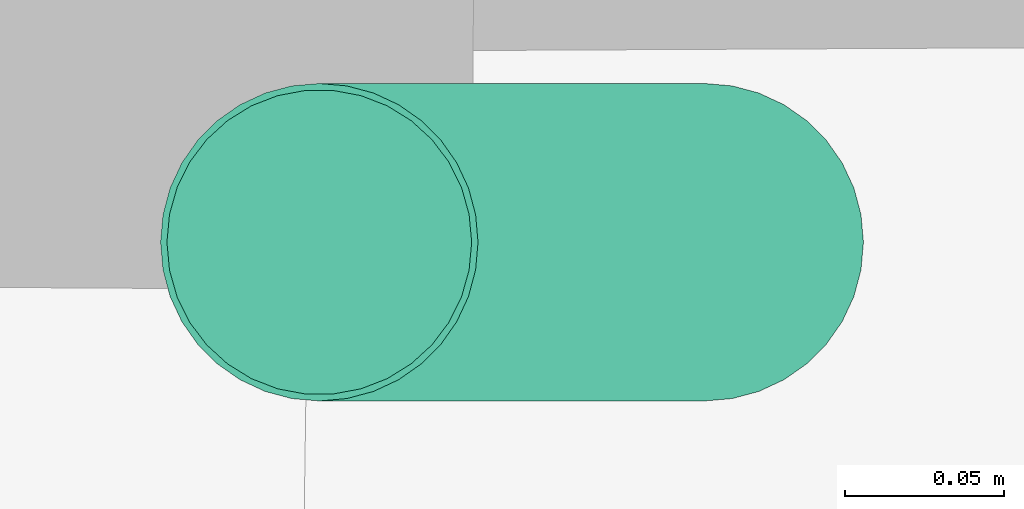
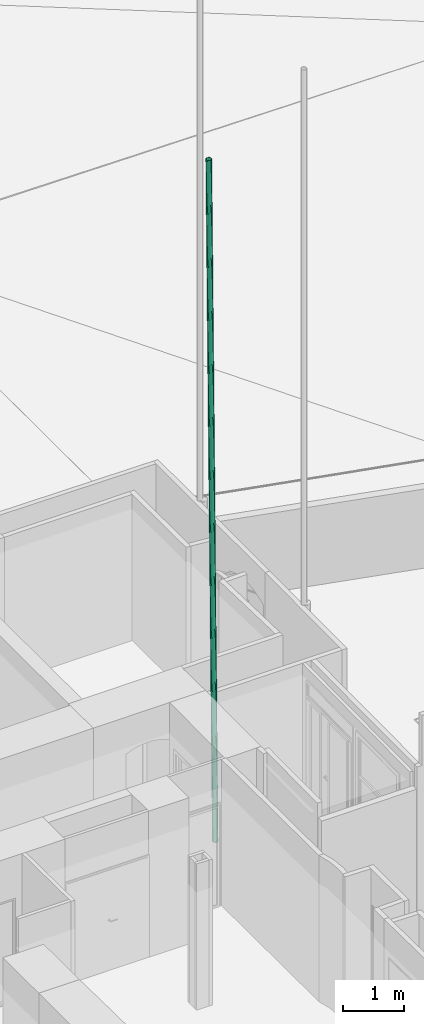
# One storey, part 123 of 133: 1 flow segment.
"""IFC2X3 building model written with IfcOpenShell, lengths in centimetres."""

from ifc_helpers import new_model, entity, si_unit, converted_unit, direction, frame, origin, origin_with_axes, place, context, subcontext, project, spatial, faceted_brep, material, type_object, element, save


model = new_model("IFC2X3")

# Units and contexts
model_context = context("Model", 3, precision=0.0001, world=origin(), true_north=direction((0.225632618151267, 0.974212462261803, 0.0)))
body_context = subcontext(model_context, "Body", "Model", "MODEL_VIEW")
ifc_project = project(units=[si_unit("LENGTHUNIT", "METRE", prefix="CENTI"), si_unit("AREAUNIT", "SQUARE_METRE", prefix="CENTI"), si_unit("VOLUMEUNIT", "CUBIC_METRE", prefix="CENTI"), converted_unit("PLANEANGLEUNIT", "DEGREE", entity("IfcRatioMeasure", 0.0174532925), si_unit("PLANEANGLEUNIT", "RADIAN"), dimensions=[0, 0, 0, 0, 0, 0, 0])], contexts=[model_context])

# Site, building, storey
site_placement = place(None, origin_with_axes())
site = spatial("IfcSite", under=ifc_project, at=site_placement, Name="Default Site", CompositionType="ELEMENT")
building_placement = place(site_placement, origin_with_axes())
building = spatial("IfcBuilding", under=site, at=building_placement, Name="Default Building", CompositionType="ELEMENT")
storey_placement = place(building_placement, frame((0.0, 0.0, -291.400371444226), z_axis=(0.0, 0.0, 1.0), x_axis=(1.0, 0.0, 0.0)))
storey = spatial("IfcBuildingStorey", under=building, at=storey_placement, Name="Rez-de-Jardin", CompositionType="ELEMENT", Elevation=-291.400371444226)

# Flow segment
ifc_material = material(Name="Aluminium mat")
pipe_segment_type = type_object("IfcPipeSegmentType", Name="Default Flow Segment Type", PredefinedType="GUTTER", material=ifc_material)
flow_segment_placement = place(storey_placement, frame((912.229072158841, 137.670713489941, 0.0), z_axis=(-0.00889330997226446, 2.46838937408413e-19, 0.999960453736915), x_axis=(-2.77555756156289e-17, -1.0, 4.28816937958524e-35)))
element("IfcFlowSegment", 1, at=flow_segment_placement, inside=storey, type_object=pipe_segment_type, material=ifc_material, Name="Descente 1533939", context=body_context, shape_type="Brep", body=[
    faceted_brep([(5.78730401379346e-06, -3.00000750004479, 1.13411934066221e-05), (-0.868239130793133, -3.07596908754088, -4.93216699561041e-06), (-0.868243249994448, -3.07596973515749, 1364.99998386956), (9.92955601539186e-06, -3.00000742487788, 1364.99997545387), (-0.868243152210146, -3.07592312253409, -4.93216698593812e-06), (-1.71011755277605, -3.30150269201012, -8.88409879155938e-07), (-1.71010542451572, -3.30150032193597, 1364.99998706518), (-0.868254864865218, -3.07592714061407, 1364.99998386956), (-1.71009915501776, -3.30157135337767, -8.8840992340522e-07), (-2.49999797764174, -3.66990723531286, 8.39251698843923e-06), (-2.49997948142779, -3.66989905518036, 1365.00002018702), (-1.71008074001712, -3.30156321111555, 1364.99998706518), (-2.50000374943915, -3.66989485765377, 8.39251699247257e-06), (-3.21390790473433, -4.16977595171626, -4.79810035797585e-06), (-3.21393038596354, -4.16979157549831, 1364.99998400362), (-2.49998132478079, -3.66987903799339, 1365.00002018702), (-3.21393626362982, -4.16973545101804, -4.79810036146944e-06), (-3.8302247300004, -4.78602390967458, -7.57873324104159e-06), (-3.83024854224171, -4.78604740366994, 1365.00002890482), (-3.21396028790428, -4.16975915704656, 1364.99998400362), (-3.83022444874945, -4.78602419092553, -7.57873324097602e-06), (-4.33013405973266, -5.49996913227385, -1.45006051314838e-07), (-4.3301564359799, -5.50000119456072, 1364.99998865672), (-3.83024662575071, -4.78605596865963, 1365.00002890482), (-4.33012860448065, -5.49997295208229, -1.45006051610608e-07), (-4.69848726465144, -6.28992066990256, -8.13650715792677e-06), (-4.698469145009, -6.28988169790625, 1364.99995597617), (-4.33014693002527, -5.50001213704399, 1364.99998865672), (-4.69846146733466, -6.2899326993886, -8.13650715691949e-06), (-4.92403285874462, -7.13177654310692, -7.7215151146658e-06), (-4.9240211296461, -7.13173184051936, 1365.00000407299), (-4.69844984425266, -6.28988839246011, 1364.99995597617), (-4.9240412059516, -7.13177430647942, -7.72151511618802e-06), (-5.00000404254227, -8.0000335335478, -1.07830734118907e-05), (-4.99999985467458, -7.99998605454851, 1365.00000101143), (-4.92403701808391, -7.13172682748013, 1365.00000407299), (-5.00000136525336, -8.00003376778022, -1.07830734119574e-05), (-4.92404682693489, -8.86819814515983, 9.14815125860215e-06), (-4.9240427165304, -8.86824551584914, 1364.99999794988), (-5.00000555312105, -7.99998628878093, 1365.00000101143), (-4.9240412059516, -8.86819765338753, 9.14815125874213e-06), (-4.69844597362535, -9.71013047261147, 1.04112753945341e-05), (-4.69845775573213, -9.71008557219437, 1365.0000460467), (-4.92402904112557, -8.86824212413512, 1364.99999794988), (-4.69846146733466, -9.71013462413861, 1.04112753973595e-05), (-4.3301393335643, -10.5000040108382, 1.57164215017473e-06), (-4.33012108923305, -10.5000430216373, 1365.00001421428), (-4.69847983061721, -9.71009512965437, 1365.0000460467), (-4.33012860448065, -10.4999990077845, 1.5716421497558e-06), (-3.83021899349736, -11.2139439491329, 9.00536929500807e-06), (-3.8302413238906, -11.2139121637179, 1364.99997311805), (-4.33010632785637, -10.500030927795, 1365.00001421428), (-3.83022444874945, -11.2139477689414, 9.0053692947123e-06), (-3.21393598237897, -11.8302362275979, 6.22473641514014e-06), (-3.21395974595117, -11.8302121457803, 1365.00001801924), (-3.83024800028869, -11.2139238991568, 1364.99997311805), (-3.21393626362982, -11.8302365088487, 6.22473641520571e-06), (-2.49998730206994, -12.330148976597, -6.11774875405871e-06), (-2.50000962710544, -12.3301332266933, 1364.99998183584), (-3.21395868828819, -11.8302206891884, 1365.00001801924), (-2.50000374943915, -12.3301724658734, -6.11774875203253e-06), (-1.71010492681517, -12.6985083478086, 3.163178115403e-06), (-1.71012342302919, -12.6985001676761, 1365.00001495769), (-2.50002216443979, -12.3301643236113, 1364.99998183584), (-1.71009915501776, -12.6984959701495, 3.16317811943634e-06), (-0.868248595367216, -12.9240691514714, 6.35880302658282e-06), (-0.868260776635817, -12.9240667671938, 1365.00001815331), (-1.71011133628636, -12.6984935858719, 1365.00001495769), (-0.868243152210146, -12.924048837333, 6.3588030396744e-06), (1.76588698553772e-06, -13.0000104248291, -9.91455736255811e-06), (5.84826914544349e-06, -13.0000110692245, 1365.000026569), (-0.868247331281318, -12.9240487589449, 1365.00001815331), (5.78730401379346e-06, -12.9999644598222, -9.91455735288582e-06), (0.868238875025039, -12.9240039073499, 6.35880304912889e-06), (0.868243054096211, -12.9240038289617, 1365.00001815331), (1.70492185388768e-06, -12.9999651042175, 1365.000026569), (0.868242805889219, -12.924048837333, 6.3588030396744e-06), (1.71009336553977, -12.6984756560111, 3.16317813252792e-06), (1.71010554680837, -12.6984732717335, 1365.00001495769), (0.868254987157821, -12.9240464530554, 1365.00001815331), (1.71009880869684, -12.6984959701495, 3.16317811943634e-06), (2.49999763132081, -12.3301600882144, -6.11774874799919e-06), (2.50001604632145, -12.3301519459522, 1364.99998183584), (1.71011730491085, -12.698487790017, 1365.00001495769), (2.50000340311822, -12.3301724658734, -6.11774875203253e-06), (3.21395236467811, -11.8302599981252, 6.22473641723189e-06), (3.21397478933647, -11.8302441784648, 1365.00001801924), (2.50002572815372, -12.3301567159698, 1364.99998183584), (3.2139359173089, -11.8302365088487, 6.22473641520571e-06), (3.83022438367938, -11.2139480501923, 9.00536929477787e-06), (3.83024793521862, -11.2139241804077, 1364.99997311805), (3.2139596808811, -11.8302124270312, 1365.00001801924), (3.83022410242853, -11.2139477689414, 9.0053692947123e-06), (4.33013371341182, -10.500002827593, 1.57164214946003e-06), (4.33011143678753, -10.5000347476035, 1365.00001421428), (3.83024643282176, -11.2139159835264, 1364.99997311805), (4.33012825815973, -10.4999990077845, 1.5716421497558e-06), (4.69845039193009, -9.71012962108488, 1.04112753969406e-05), (4.69846875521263, -9.71009012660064, 1365.0000460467), (4.33011001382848, -10.5000380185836, 1365.00001421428), (4.69846112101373, -9.71013462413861, 1.04112753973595e-05), (4.92405635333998, -8.86820180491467, 9.1481512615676e-06), (4.92404418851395, -8.86824627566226, 1364.99999794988), (4.69847290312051, -9.71008972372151, 1365.0000460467), (4.92404085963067, -8.86819765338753, 9.14815125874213e-06), (4.99999539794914, -8.00003327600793, -1.07830734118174e-05), (4.99999958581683, -7.99998579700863, 1365.00000101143), (4.92403674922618, -8.86824502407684, 1364.99999794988), (5.00000101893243, -8.00003376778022, -1.07830734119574e-05), (4.92403818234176, -7.13177454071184, -7.72151511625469e-06), (4.92403399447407, -7.13172706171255, 1365.00000407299), (4.99999683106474, -7.99998628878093, 1365.00000101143), (4.92404085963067, -7.13177430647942, -7.72151511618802e-06), (4.69846946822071, -6.2899304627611, -8.13650715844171e-06), (4.69845784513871, -6.28988615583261, 1364.99995597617), (4.92402913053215, -7.13172960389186, 1365.00000407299), (4.69846112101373, -6.2899326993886, -8.13650715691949e-06), (4.33010246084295, -5.49998498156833, -1.45006050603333e-07), (4.33012078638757, -5.50002416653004, 1364.99998865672), (4.69844300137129, -6.28989372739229, 1364.99995597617), (4.33012825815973, -5.49997295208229, -1.45006051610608e-07), (3.83021864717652, -4.78602801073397, -7.57873324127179e-06), (3.83024082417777, -4.78605978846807, 1365.00002890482), (4.33015063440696, -5.50000501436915, 1364.99998865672), (3.83022410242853, -4.78602419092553, -7.57873324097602e-06), (3.21393563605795, -4.16973573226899, -4.79810036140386e-06), (3.2139596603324, -4.1697594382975, 1364.99998400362), (3.83024791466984, -4.78604768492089, 1365.00002890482), (3.2139359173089, -4.16973545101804, -4.79810036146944e-06), (2.50003176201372, -3.66985435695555, 8.39251698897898e-06), (2.50000933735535, -3.66983853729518, 1365.00002018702), (3.2139583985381, -4.1697510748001, 1364.99998400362), (2.50000340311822, -3.66989485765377, 8.39251699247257e-06), (1.71010458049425, -3.30155897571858, -8.88409919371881e-07), (1.71008616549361, -3.30155083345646, 1364.99998706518), (2.49998490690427, -3.66988667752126, 1365.00002018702), (1.71009880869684, -3.30157135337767, -8.8840992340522e-07), (0.868224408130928, -3.07599178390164, -4.93216703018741e-06), (0.868236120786, -3.07599580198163, 1364.99998386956), (1.7100866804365, -3.30156898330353, 1364.99998706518), (0.868242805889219, -3.07592312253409, -4.93216698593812e-06), (9.71816817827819e-06, -2.99996257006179, 1.13411934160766e-05), (5.57591617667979e-06, -2.99996249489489, 1364.99997545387), (0.868246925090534, -3.0759237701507, 1364.99998386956), (5.78730401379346e-06, -3.20000099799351, 1.80564274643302e-06), (0.881999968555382, -3.28172979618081, -1.04134878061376e-05), (0.881995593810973, -3.28172916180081, 1365.00000138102), (1.39307910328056e-06, -3.20000036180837, 1365.00003744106), (0.881999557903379, -3.28173422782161, -1.04134878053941e-05), (1.73397203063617, -3.52414129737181, -1.43965998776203e-07), (1.7339596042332, -3.52413755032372, 1364.99996396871), (0.881987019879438, -3.2817304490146, 1365.00000138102), (1.7339645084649, -3.52416773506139, -1.43965994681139e-07), (2.52687921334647, -3.9189923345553, 6.50854277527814e-06), (2.52685986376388, -3.91898313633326, 1365.00004214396), (1.73394541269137, -3.52415866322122, 1364.99996396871), (2.52687317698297, -3.91900445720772, 6.50854277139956e-06), (3.23373377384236, -4.45280077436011, 9.16198334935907e-06), (3.23371069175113, -4.45278349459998, 1365.00002095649), (2.52684999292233, -3.91898710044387, 1365.00004214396), (3.23373658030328, -4.45279705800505, 9.16198334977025e-06), (3.83045121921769, -5.10736184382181, -1.11313908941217e-05), (3.83047438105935, -5.10738803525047, 1365.00002535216), (3.23371236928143, -4.45277128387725, 1365.00002095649), (3.83048636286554, -5.10732980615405, -1.11313908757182e-05), (4.29680661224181, -5.86046287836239, 1.11118312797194e-05), (4.29678499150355, -5.86042820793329, 1365.00004674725), (3.83050742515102, -5.10736407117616, 1365.00002535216), (4.29678541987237, -5.86047600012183, 1.11118312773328e-05), (4.61674920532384, -6.68639770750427, -1.0906667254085e-05), (4.61676563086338, -6.68643928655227, 1364.99995405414), (4.29676950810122, -5.86043410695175, 1365.00004674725), (4.61676699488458, -6.68639081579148, -1.09066672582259e-05), (4.77953587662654, -7.55712740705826, 8.08320987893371e-06), (4.77952734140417, -7.55708158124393, 1364.99997219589), (4.61677568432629, -6.68643713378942, 1364.99995405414), (4.77952343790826, -7.55712973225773, 8.08320987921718e-06), (4.77952343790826, -8.44284222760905, -6.6565738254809e-06), (4.77952343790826, -8.4428895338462, 1365.00002982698), (4.77952343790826, -7.55708231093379, 1364.99997219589), (4.61675451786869, -9.31357902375, -1.15076117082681e-05), (4.61674582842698, -9.31362534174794, 1364.9999534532), (4.77951486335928, -8.44288793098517, 1365.00002982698), (4.61676699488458, -9.31358135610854, -1.15076117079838e-05), (4.2967711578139, -10.1395857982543, -8.83706308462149e-06), (4.29678685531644, -10.1395444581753, 1364.99995527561), (4.61675056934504, -9.31362293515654, 1364.9999534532), (4.29678541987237, -10.1395913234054, -8.83706308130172e-06), (3.83050775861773, -10.8926556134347, -1.12828880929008e-05), (3.83048650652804, -10.8926901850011, 1364.99997751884), (4.29680675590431, -10.1395571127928, 1364.99995527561), (3.83048636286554, -10.892642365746, -1.12828880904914e-05), (3.23372435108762, -11.5472591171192, -6.88721514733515e-06), (3.23374845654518, -11.5472334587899, 1364.99998106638), (3.8304629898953, -10.8926687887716, 1364.99997751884), (3.23373658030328, -11.5472702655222, -6.88721515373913e-06), (2.52687598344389, -12.0810665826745, -4.2337745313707e-06), (2.52689886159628, -12.0810494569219, 1364.9999598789), (3.23375956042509, -11.5472530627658, 1364.99998106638), (2.52687317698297, -12.0810628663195, -4.23377453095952e-06), (1.7339584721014, -12.4758874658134, 2.41873423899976e-06), (1.73397782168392, -12.4758782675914, 1365.00003805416), (2.52689227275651, -12.0810537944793, 1364.9999598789), (1.7339645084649, -12.4758995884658, 2.41873423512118e-06), (0.882017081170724, -12.7182995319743, -1.20007911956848e-05), (0.882004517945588, -12.7183028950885, 1365.00000064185), (1.73397710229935, -12.4758957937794, 1365.00003805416), (0.881999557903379, -12.7182379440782, -1.20007912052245e-05), (5.39613246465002e-06, -12.7999667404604, -3.79006648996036e-07), (9.70402476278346e-07, -12.7999669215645, 1364.9999645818), (0.881995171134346, -12.718238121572, 1365.00000064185), (5.78730401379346e-06, -12.7999709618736, -3.79006648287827e-07), (-0.882000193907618, -12.718241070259, -1.20007912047e-05), (-0.881995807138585, -12.7182412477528, 1365.00000064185), (1.02130340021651e-05, -12.7999711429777, 1364.9999645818), (-0.881999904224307, -12.7182379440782, -1.20007912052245e-05), (-1.73394733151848, -12.4758380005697, 2.41873422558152e-06), (-1.73395992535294, -12.4758342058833, 1365.00003805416), (-0.881987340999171, -12.7182413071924, 1365.00000064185), (-1.73396485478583, -12.4758995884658, 2.41873423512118e-06), (-2.5268795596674, -12.0810749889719, -4.23377453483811e-06), (-2.52689865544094, -12.0810659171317, 1364.9999598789), (-1.73398420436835, -12.4758903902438, 1365.00003805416), (-2.5268735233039, -12.0810628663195, -4.23377453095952e-06), (-3.23373412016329, -11.5472665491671, -6.88721515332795e-06), (-3.2337571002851, -11.5472493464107, 1364.99998106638), (-2.52689640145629, -12.0810457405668, 1364.9999598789), (-3.23373692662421, -11.5472702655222, -6.88721515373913e-06), (-3.83049893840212, -10.8926535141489, -1.12828880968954e-05), (-3.83047556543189, -10.8926799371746, 1364.99997751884), (-3.23376103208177, -11.5472446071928, 1364.99998106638), (-3.83048670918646, -10.892642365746, -1.12828880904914e-05), (-4.2967643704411, -10.1395780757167, -8.83706307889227e-06), (-4.29678570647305, -10.1395438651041, 1364.99995527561), (-3.83046545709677, -10.8926769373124, 1364.99997751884), (-4.2967857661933, -10.1395913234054, -8.83706308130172e-06), (-4.61678160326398, -9.31358688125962, -1.1507611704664e-05), (-4.61676517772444, -9.31362846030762, 1364.9999534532), (-4.29680146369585, -10.1395499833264, 1364.99995527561), (-4.61676734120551, -9.31358135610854, -1.15076117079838e-05), (-4.77953626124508, -8.44284455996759, -6.65657382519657e-06), (-4.7795276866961, -8.44289026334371, 1365.00002982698), (-4.6167586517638, -9.31362767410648, 1364.9999534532), (-4.77952378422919, -8.44284222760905, -6.6565738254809e-06), (-4.77952378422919, -7.55712973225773, 8.08320987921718e-06), (-4.77952378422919, -7.55708231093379, 1364.99997219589), (-4.77952378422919, -8.4428895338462, 1365.00002982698), (-4.61675490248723, -6.68639314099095, -1.09066672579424e-05), (-4.61676359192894, -6.68643945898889, 1364.99995405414), (-4.77951524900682, -7.5570839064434, 1364.99997219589), (-4.61676734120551, -6.68639081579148, -1.09066672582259e-05), (-4.29680355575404, -5.86046910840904, 1.1111831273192e-05), (-4.29678764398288, -5.86042721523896, 1365.00004674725), (-4.61678376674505, -6.68643239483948, 1364.99995405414), (-4.2967857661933, -5.86047600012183, 1.11118312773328e-05), (-3.83046551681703, -5.10734292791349, -1.11313908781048e-05), (-3.83048657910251, -5.1073771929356, 1365.00002535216), (-4.29676414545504, -5.86044132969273, 1365.00004674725), (-3.83048670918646, -5.10732980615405, -1.11313908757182e-05), (-3.23377207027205, -4.45276502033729, 9.16198336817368e-06), (-3.23374785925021, -4.45273924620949, 1365.00002095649), (-3.83050987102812, -5.10735599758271, 1365.00002535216), (-3.23373692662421, -4.45279705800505, 9.16198334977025e-06), (-2.52687632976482, -3.91900074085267, 6.50854277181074e-06), (-2.52685314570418, -3.91898338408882, 1365.00004214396), (-3.23371384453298, -4.45277977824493, 1365.00002095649), (-2.5268735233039, -3.91900445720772, 6.50854277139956e-06), (-1.73395881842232, -3.52417985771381, -1.43965998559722e-07), (-1.73393972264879, -3.52417078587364, 1364.99996396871), (-2.5268541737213, -3.91899525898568, 1365.00004214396), (-1.73396485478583, -3.52416773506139, -1.43965994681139e-07), (-0.881992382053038, -3.28176066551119, -1.0413487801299e-05), (-0.881979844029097, -3.28175688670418, 1365.00000138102), (-1.73395242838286, -3.5241639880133, 1364.99996396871), (-0.881999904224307, -3.28173422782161, -1.04134878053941e-05), (6.09646777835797e-06, -3.20000433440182, 1.80564274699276e-06), (1.04906926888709e-05, -3.20000369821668, 1365.00003744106), (-0.881995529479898, -3.28173359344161, 1365.00000138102), (5.78730401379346e-06, -2.99996007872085, 1364.99997545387), (-0.868243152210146, -3.07597085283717, 1364.99997545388), (-1.71009915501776, -3.30152372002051, 1364.99997545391), (-2.50000374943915, -3.66984701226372, 1364.99997545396), (-3.21393626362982, -4.16978318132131, 1364.99997545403), (-3.83022444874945, -4.78607149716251, 1364.99997545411), (-4.33012860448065, -5.50002068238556, 1364.9999754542), (-4.69846146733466, -6.28988527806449, 1364.99997545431), (-4.9240412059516, -7.1317264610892, 1364.99997545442), (-5.00000136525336, -7.99998592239, 1364.99997545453), (-4.9240412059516, -8.86824538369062, 1364.99997545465), (-4.69846146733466, -9.71008656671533, 1364.99997545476), (-4.33012860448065, -10.5000465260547, 1364.99997545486), (-3.83022444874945, -11.2139003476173, 1364.99997545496), (-3.21393626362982, -11.8301886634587, 1364.99997545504), (-2.50000374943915, -12.3301248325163, 1364.9999754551), (-1.71009915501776, -12.6984481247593, 1364.99997545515), (-0.868243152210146, -12.9240009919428, 1364.99997545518), (5.78730401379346e-06, -13.0000117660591, 1364.99997545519), (0.868242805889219, -12.9240009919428, 1364.99997545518), (1.71009880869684, -12.6984481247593, 1364.99997545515), (2.50000340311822, -12.3301248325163, 1364.9999754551), (3.2139359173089, -11.8301886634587, 1364.99997545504), (3.83022410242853, -11.2139003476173, 1364.99997545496), (4.33012825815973, -10.5000465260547, 1364.99997545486), (4.69846112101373, -9.71008656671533, 1364.99997545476), (4.92404085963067, -8.86824538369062, 1364.99997545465), (5.00000101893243, -7.99998592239, 1364.99997545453), (4.92404085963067, -7.1317264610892, 1364.99997545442), (4.69846112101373, -6.28988527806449, 1364.99997545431), (4.33012825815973, -5.50002068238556, 1364.9999754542), (3.83022410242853, -4.78607149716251, 1364.99997545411), (3.2139359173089, -4.16978318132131, 1364.99997545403), (2.50000340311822, -3.66984701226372, 1364.99997545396), (1.71009880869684, -3.30152372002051, 1364.99997545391), (0.868242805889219, -3.07597085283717, 1364.99997545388), (5.78730401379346e-06, -3.19995294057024, 1364.9999754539), (0.881999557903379, -3.28168638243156, 1364.99997545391), (1.7339645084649, -3.52412031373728, 1364.99997545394), (2.52687317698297, -3.91895639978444, 1364.99997545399), (3.23373658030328, -4.45274921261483, 1364.99997545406), (3.83048636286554, -5.10737711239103, 1364.99997545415), (4.29678541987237, -5.86042794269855, 1364.99997545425), (4.61676699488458, -6.68643875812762, 1364.99997545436), (4.77952343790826, -7.55708231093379, 1364.99997545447), (4.77952343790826, -8.44288953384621, 1364.99997545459), (4.61676699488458, -9.31362929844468, 1364.99997545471), (4.29678541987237, -10.1395439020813, 1364.99997545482), (3.83048636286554, -10.8926900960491, 1364.99997545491), (3.23373658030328, -11.547222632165, 1364.999975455), (2.52687317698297, -12.0810154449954, 1364.99997545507), (1.7339645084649, -12.4758515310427, 1364.99997545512), (0.881999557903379, -12.7182854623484, 1364.99997545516), (5.78730401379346e-06, -12.8000189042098, 1364.99997545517), (-0.881999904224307, -12.7182854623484, 1364.99997545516), (-1.73396485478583, -12.4758515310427, 1364.99997545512), (-2.5268735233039, -12.0810154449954, 1364.99997545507), (-3.23373692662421, -11.547222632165, 1364.999975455), (-3.83048670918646, -10.8926900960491, 1364.99997545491), (-4.2967857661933, -10.1395439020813, 1364.99997545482), (-4.61676734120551, -9.31362929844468, 1364.99997545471), (-4.77952378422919, -8.44288953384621, 1364.99997545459), (-4.77952378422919, -7.55708231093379, 1364.99997545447), (-4.61676734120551, -6.68643875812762, 1364.99997545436), (-4.2967857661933, -5.86042794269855, 1364.99997545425), (-3.83048670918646, -5.10737711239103, 1364.99997545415), (-3.23373692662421, -4.45274921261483, 1364.99997545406), (-2.5268735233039, -3.91895639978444, 1364.99997545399), (-1.73396485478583, -3.52412031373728, 1364.99997545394), (-0.881999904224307, -3.28168638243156, 1364.99997545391), (1.71009880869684, -3.30157135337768, -4.93213713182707e-06), (2.50000340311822, -3.66989485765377, -4.93208840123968e-06), (3.2139359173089, -4.16973545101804, -4.93202227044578e-06), (3.83022410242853, -4.78602419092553, -4.93194073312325e-06), (4.33012825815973, -5.49997295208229, -4.93184627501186e-06), (4.69846112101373, -6.2899326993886, -4.93174176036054e-06), (4.92404085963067, -7.13177430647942, -4.93163038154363e-06), (5.00000101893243, -8.00003376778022, -4.93151550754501e-06), (4.92404085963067, -8.86819765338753, -4.93140064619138e-06), (4.69846112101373, -9.71013462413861, -4.93128925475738e-06), (4.33012825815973, -10.4999990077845, -4.93118475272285e-06), (3.83022410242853, -11.2139477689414, -4.93109029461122e-06), (3.2139359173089, -11.8302365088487, -4.93100875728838e-06), (2.50000340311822, -12.3301724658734, -4.93094261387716e-06), (1.71009880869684, -12.6984959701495, -4.93089388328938e-06), (0.868242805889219, -12.924048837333, -4.93086404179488e-06), (5.78730401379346e-06, -12.9999644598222, -4.93085399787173e-06), (-0.868243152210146, -12.924048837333, -4.93086404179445e-06), (-1.71009915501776, -12.6984959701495, -4.93089388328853e-06), (-2.50000374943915, -12.3301724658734, -4.93094261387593e-06), (-3.21393626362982, -11.8302365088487, -4.9310087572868e-06), (-3.83022444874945, -11.2139477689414, -4.93109029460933e-06), (-4.33012860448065, -10.4999990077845, -4.93118475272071e-06), (-4.69846146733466, -9.71013462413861, -4.93128925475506e-06), (-4.9240412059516, -8.86819765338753, -4.93140064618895e-06), (-5.00000136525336, -8.00003376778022, -4.93151550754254e-06), (-4.9240412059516, -7.13177430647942, -4.9316303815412e-06), (-4.69846146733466, -6.2899326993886, -4.93174176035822e-06), (-4.33012860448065, -5.49997295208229, -4.93184627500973e-06), (-3.83022444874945, -4.78602419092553, -4.93194073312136e-06), (-3.21393626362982, -4.16973545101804, -4.93202227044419e-06), (-2.50000374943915, -3.66989485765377, -4.93208840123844e-06), (-1.71009915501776, -3.30157135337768, -4.93213713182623e-06), (-0.868243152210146, -3.07592312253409, -4.9321669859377e-06), (5.78730401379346e-06, -3.00000750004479, -4.93217702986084e-06), (-0.881999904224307, -3.28173422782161, -4.9321397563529e-06), (-1.73396485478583, -3.52416773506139, -4.9321076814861e-06), (-2.5268735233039, -3.91900445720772, -4.93205544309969e-06), (-3.23373692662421, -4.45279705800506, -4.93198482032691e-06), (-3.83048670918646, -5.10732980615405, -4.93189822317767e-06), (-4.2967857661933, -5.86047600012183, -4.93179857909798e-06), (-4.61676734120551, -6.68639081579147, -4.93168930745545e-06), (-4.77952378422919, -7.55712973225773, -4.93157410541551e-06), (-4.77952378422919, -8.44284222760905, -4.9314569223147e-06), (-4.61676734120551, -9.31358135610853, -4.93134172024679e-06), (-4.2967857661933, -10.1395913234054, -4.9312324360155e-06), (-3.83048670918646, -10.892642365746, -4.93113280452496e-06), (-3.23373692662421, -11.5472702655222, -4.9310461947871e-06), (-2.5268735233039, -12.0810628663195, -4.93097557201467e-06), (-1.73396485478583, -12.4758995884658, -4.93092333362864e-06), (-0.881999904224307, -12.7182379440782, -4.93089127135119e-06), (5.78730401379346e-06, -12.7999709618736, -4.93088045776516e-06), (0.881999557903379, -12.7182379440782, -4.93089127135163e-06), (1.7339645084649, -12.4758995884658, -4.9309233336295e-06), (2.52687317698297, -12.0810628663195, -4.93097557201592e-06), (3.23373658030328, -11.5472702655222, -4.9310461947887e-06), (3.83048636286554, -10.892642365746, -4.93113280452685e-06), (4.29678541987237, -10.1395913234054, -4.93123243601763e-06), (4.61676699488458, -9.31358135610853, -4.93134172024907e-06), (4.77952343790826, -8.44284222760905, -4.93145692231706e-06), (4.77952343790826, -7.55712973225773, -4.93157410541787e-06), (4.61676699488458, -6.68639081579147, -4.93168930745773e-06), (4.29678541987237, -5.86047600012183, -4.9317985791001e-06), (3.83048636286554, -5.10732980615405, -4.93189822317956e-06), (3.23373658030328, -4.45279705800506, -4.9319848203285e-06), (2.52687317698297, -3.91900445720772, -4.93205544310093e-06), (1.7339645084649, -3.52416773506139, -4.93210768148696e-06), (0.881999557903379, -3.28173422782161, -4.93213975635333e-06), (5.78730401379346e-06, -3.20000099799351, -4.93215056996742e-06)], [[[0, 1, 2, 3]], [[4, 5, 6, 7]], [[8, 9, 10, 11]], [[12, 13, 14, 15]], [[16, 17, 18, 19]], [[20, 21, 22, 23]], [[24, 25, 26, 27]], [[28, 29, 30, 31]], [[32, 33, 34, 35]], [[36, 37, 38, 39]], [[40, 41, 42, 43]], [[44, 45, 46, 47]], [[48, 49, 50, 51]], [[52, 53, 54, 55]], [[56, 57, 58, 59]], [[60, 61, 62, 63]], [[64, 65, 66, 67]], [[68, 69, 70, 71]], [[72, 73, 74, 75]], [[76, 77, 78, 79]], [[80, 81, 82, 83]], [[84, 85, 86, 87]], [[88, 89, 90, 91]], [[92, 93, 94, 95]], [[96, 97, 98, 99]], [[100, 101, 102, 103]], [[104, 105, 106, 107]], [[108, 109, 110, 111]], [[112, 113, 114, 115]], [[116, 117, 118, 119]], [[120, 121, 122, 123]], [[124, 125, 126, 127]], [[128, 129, 130, 131]], [[132, 133, 134, 135]], [[136, 137, 138, 139]], [[140, 141, 142, 143]], [[144, 145, 146, 147]], [[148, 149, 150, 151]], [[152, 153, 154, 155]], [[156, 157, 158, 159]], [[160, 161, 162, 163]], [[164, 165, 166, 167]], [[168, 169, 170, 171]], [[172, 173, 174, 175]], [[176, 177, 178, 179]], [[177, 180, 181, 182]], [[183, 184, 185, 186]], [[187, 188, 189, 190]], [[191, 192, 193, 194]], [[195, 196, 197, 198]], [[199, 200, 201, 202]], [[203, 204, 205, 206]], [[207, 208, 209, 210]], [[211, 212, 213, 214]], [[215, 216, 217, 218]], [[219, 220, 221, 222]], [[223, 224, 225, 226]], [[227, 228, 229, 230]], [[231, 232, 233, 234]], [[235, 236, 237, 238]], [[239, 240, 241, 242]], [[243, 244, 245, 246]], [[244, 247, 248, 249]], [[250, 251, 252, 253]], [[254, 255, 256, 257]], [[258, 259, 260, 261]], [[262, 263, 264, 265]], [[266, 267, 268, 269]], [[270, 271, 272, 273]], [[274, 275, 276, 277]], [[278, 279, 280, 281, 282, 283, 284, 285, 286, 287, 288, 289, 290, 291, 292, 293, 294, 295, 296, 297, 298, 299, 300, 301, 302, 303, 304, 305, 306, 307, 308, 309, 310, 311, 312, 313], [314, 315, 316, 317, 318, 319, 320, 321, 322, 323, 324, 325, 326, 327, 328, 329, 330, 331, 332, 333, 334, 335, 336, 337, 338, 339, 340, 341, 342, 343, 344, 345, 346, 347]], [[140, 348, 349, 350, 351, 352, 353, 354, 355, 356, 357, 358, 359, 360, 361, 362, 363, 364, 365, 366, 367, 368, 369, 370, 371, 372, 373, 374, 375, 376, 377, 378, 379, 380, 381, 382], [383, 384, 385, 386, 387, 388, 389, 390, 391, 392, 393, 394, 395, 396, 397, 398, 399, 400, 401, 402, 403, 404, 405, 406, 407, 408, 409, 410, 411, 412, 413, 414, 415, 416]]]),
])

save(model, "model.ifc")
